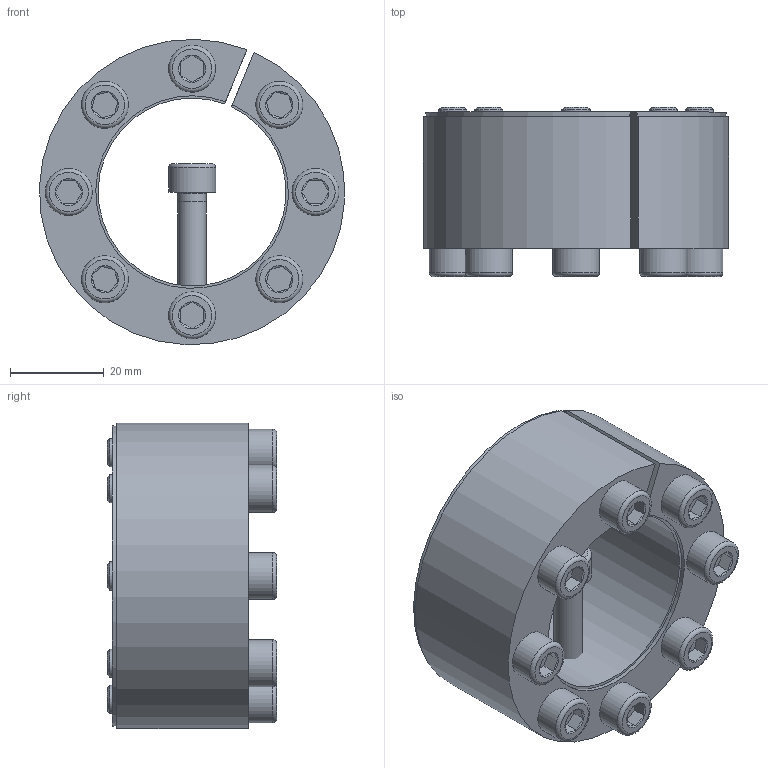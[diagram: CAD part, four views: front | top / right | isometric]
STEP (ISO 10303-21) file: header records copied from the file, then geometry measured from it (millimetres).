
FILE_DESCRIPTION( ( 'Unknown' ), '1' );
FILE_NAME( 'C:/Dokumente und Einstellungen/Sven/Desktop/homepage/cad - homepage/KBS61/KBS 61 - 40 x 65.stp', 'Unknown', ( 'Unknown' ), ( 'Unknown' ), 'XStep 1.0', 'Unknown', ' ' );
FILE_SCHEMA( ( 'automotive_design' ) );
Length unit declared in the file: millimetre
Products named in the file (3): Assem1; KBS 61 - 40 x 65; ISO EN DIN 4762 M6x30
Bounding box: 64.92 x 36 x 64.96 mm (x, y, z)
Volume: 116142.8 mm3; surface area: 45121.2 mm2
Topology: 11 solids, 11 shells, 261 faces, 499 edges, 296 vertices
Faces by surface type: plane 120, cone 67, cylinder 56, torus 18
Full cylindrical faces by diameter (mm): 5 x9, 6 x34, 10 x9
Entity records: 1378 total; most frequent: CARTESIAN_POINT 241, DIRECTION 212, ORIENTED_EDGE 150, AXIS2_PLACEMENT_3D 94, EDGE_LOOP 78, EDGE_CURVE 75, FACE_OUTER_BOUND 57, VERTEX_POINT 55
